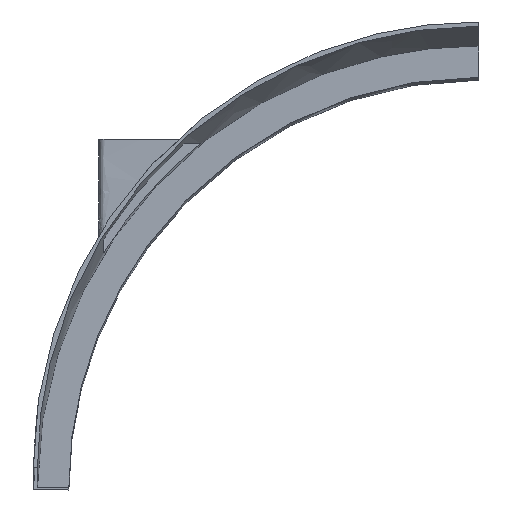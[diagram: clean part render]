
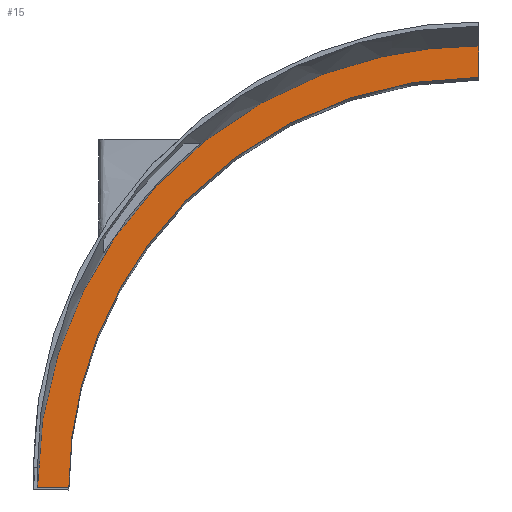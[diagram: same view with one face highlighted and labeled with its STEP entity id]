
A CAD part, top view. The second image highlights one B-rep face of the part: STEP entity #15.
In plain terms, the highlighted free-form (B-spline) face has degree [1, 3] with [2, 19] control points.
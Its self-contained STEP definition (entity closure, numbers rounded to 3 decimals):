
#15=ADVANCED_FACE('',(#27),#153,.T.);
#27=FACE_OUTER_BOUND('',#38,.T.);
#38=EDGE_LOOP('',(#54,#55,#56,#57));
#54=ORIENTED_EDGE('',*,*,#90,.F.);
#55=ORIENTED_EDGE('',*,*,#88,.F.);
#56=ORIENTED_EDGE('',*,*,#89,.F.);
#57=ORIENTED_EDGE('',*,*,#84,.F.);
#84=EDGE_CURVE('',#132,#133,#110,.T.);
#88=EDGE_CURVE('',#137,#136,#114,.T.);
#89=EDGE_CURVE('',#133,#137,#115,.T.);
#90=EDGE_CURVE('',#136,#132,#116,.T.);
#110=B_SPLINE_CURVE_WITH_KNOTS('',3,(#772,#773,#774,#775,#776,#777,#778,
#779,#780,#781,#782,#783,#784,#785,#786,#787,#788,#789,#790),
 .UNSPECIFIED.,.F.,.F.,(4,1,1,1,1,1,1,1,1,1,1,1,1,1,1,1,4),(0.,63.456,
126.451,189.16,251.724,314.29,376.996,
439.991,503.446,566.899,629.893,692.6,
755.163,817.726,880.432,943.43,1006.884),
 .UNSPECIFIED.);
#114=B_SPLINE_CURVE_WITH_KNOTS('',3,(#818,#819,#820,#821,#822,#823,#824,
#825,#826,#827,#828,#829,#830,#831,#832,#833,#834,#835,#836),
 .UNSPECIFIED.,.F.,.F.,(4,1,1,1,1,1,1,1,1,1,1,1,1,1,1,1,4),(-1006.884,
-943.43,-880.432,-817.726,-755.163,
-692.6,-629.893,-566.899,-503.446,-439.991,
-376.996,-314.29,-251.724,-189.16,-126.451,
-63.456,0.),.UNSPECIFIED.);
#115=B_SPLINE_CURVE_WITH_KNOTS('',1,(#837,#838),.UNSPECIFIED.,.F.,.F.,(2,
2),(-154.991,-109.444),.UNSPECIFIED.);
#116=B_SPLINE_CURVE_WITH_KNOTS('',1,(#839,#840),.UNSPECIFIED.,.F.,.F.,(2,
2),(109.444,154.991),.UNSPECIFIED.);
#132=VERTEX_POINT('',#756);
#133=VERTEX_POINT('',#757);
#136=VERTEX_POINT('',#760);
#137=VERTEX_POINT('',#761);
#153=B_SPLINE_SURFACE_WITH_KNOTS('',1,3,((#332,#333,#334,#335,#336,#337,
#338,#339,#340,#341,#342,#343,#344,#345,#346,#347,#348,#349,#350),(#351,
#352,#353,#354,#355,#356,#357,#358,#359,#360,#361,#362,#363,#364,#365,#366,
#367,#368,#369)),.UNSPECIFIED.,.F.,.F.,.F.,(2,2),(4,1,1,1,1,1,1,1,1,1,1,
1,1,1,1,1,4),(-154.991,-109.444),(0.,63.456,126.451,
189.16,251.724,314.29,376.996,439.991,
503.446,566.899,629.893,692.6,755.163,
817.726,880.432,943.43,1006.884),
 .UNSPECIFIED.);
#332=CARTESIAN_POINT('',(1159.364,-142550.254,-1996.016));
#333=CARTESIAN_POINT('',(1159.362,-142529.1,-1996.016));
#334=CARTESIAN_POINT('',(1161.446,-142486.954,-1996.016));
#335=CARTESIAN_POINT('',(1170.763,-142424.514,-1996.016));
#336=CARTESIAN_POINT('',(1186.079,-142363.578,-1996.016));
#337=CARTESIAN_POINT('',(1207.217,-142304.562,-1996.016));
#338=CARTESIAN_POINT('',(1234.004,-142247.885,-1996.016));
#339=CARTESIAN_POINT('',(1266.263,-142193.97,-1996.016));
#340=CARTESIAN_POINT('',(1303.824,-142143.232,-1996.016));
#341=CARTESIAN_POINT('',(1346.371,-142096.255,-1996.016));
#342=CARTESIAN_POINT('',(1393.346,-142053.711,-1996.016));
#343=CARTESIAN_POINT('',(1444.083,-142016.15,-1996.016));
#344=CARTESIAN_POINT('',(1497.999,-141983.892,-1996.016));
#345=CARTESIAN_POINT('',(1554.675,-141957.106,-1996.016));
#346=CARTESIAN_POINT('',(1613.687,-141935.969,-1996.016));
#347=CARTESIAN_POINT('',(1674.624,-141920.653,-1996.016));
#348=CARTESIAN_POINT('',(1737.06,-141911.336,-1996.016));
#349=CARTESIAN_POINT('',(1779.213,-141909.252,-1996.016));
#350=CARTESIAN_POINT('',(1800.363,-141909.254,-1996.016));
#351=CARTESIAN_POINT('',(1204.911,-142550.254,-1996.016));
#352=CARTESIAN_POINT('',(1204.909,-142530.603,-1996.016));
#353=CARTESIAN_POINT('',(1206.844,-142491.452,-1996.016));
#354=CARTESIAN_POINT('',(1215.498,-142433.454,-1996.016));
#355=CARTESIAN_POINT('',(1229.726,-142376.848,-1996.016));
#356=CARTESIAN_POINT('',(1249.362,-142322.024,-1996.016));
#357=CARTESIAN_POINT('',(1274.246,-142269.372,-1996.016));
#358=CARTESIAN_POINT('',(1304.213,-142219.288,-1996.016));
#359=CARTESIAN_POINT('',(1339.102,-142172.158,-1996.016));
#360=CARTESIAN_POINT('',(1378.628,-142128.517,-1996.016));
#361=CARTESIAN_POINT('',(1422.265,-142088.994,-1996.016));
#362=CARTESIAN_POINT('',(1469.395,-142054.105,-1996.016));
#363=CARTESIAN_POINT('',(1519.48,-142024.137,-1996.016));
#364=CARTESIAN_POINT('',(1572.13,-141999.254,-1996.016));
#365=CARTESIAN_POINT('',(1626.951,-141979.618,-1996.016));
#366=CARTESIAN_POINT('',(1683.557,-141965.39,-1996.016));
#367=CARTESIAN_POINT('',(1741.552,-141956.736,-1996.016));
#368=CARTESIAN_POINT('',(1780.709,-141954.799,-1996.016));
#369=CARTESIAN_POINT('',(1800.357,-141954.801,-1996.016));
#756=CARTESIAN_POINT('',(1159.364,-142550.254,-1996.016));
#757=CARTESIAN_POINT('',(1800.363,-141909.254,-1996.016));
#760=CARTESIAN_POINT('',(1204.911,-142550.254,-1996.016));
#761=CARTESIAN_POINT('',(1800.357,-141954.801,-1996.016));
#772=CARTESIAN_POINT('',(1159.364,-142550.254,-1996.016));
#773=CARTESIAN_POINT('',(1159.362,-142529.1,-1996.016));
#774=CARTESIAN_POINT('',(1161.446,-142486.954,-1996.016));
#775=CARTESIAN_POINT('',(1170.763,-142424.514,-1996.016));
#776=CARTESIAN_POINT('',(1186.079,-142363.578,-1996.016));
#777=CARTESIAN_POINT('',(1207.217,-142304.562,-1996.016));
#778=CARTESIAN_POINT('',(1234.004,-142247.885,-1996.016));
#779=CARTESIAN_POINT('',(1266.263,-142193.97,-1996.016));
#780=CARTESIAN_POINT('',(1303.824,-142143.232,-1996.016));
#781=CARTESIAN_POINT('',(1346.371,-142096.255,-1996.016));
#782=CARTESIAN_POINT('',(1393.346,-142053.711,-1996.016));
#783=CARTESIAN_POINT('',(1444.083,-142016.15,-1996.016));
#784=CARTESIAN_POINT('',(1497.999,-141983.892,-1996.016));
#785=CARTESIAN_POINT('',(1554.675,-141957.106,-1996.016));
#786=CARTESIAN_POINT('',(1613.687,-141935.969,-1996.016));
#787=CARTESIAN_POINT('',(1674.624,-141920.653,-1996.016));
#788=CARTESIAN_POINT('',(1737.06,-141911.336,-1996.016));
#789=CARTESIAN_POINT('',(1779.213,-141909.252,-1996.016));
#790=CARTESIAN_POINT('',(1800.363,-141909.254,-1996.016));
#818=CARTESIAN_POINT('',(1800.357,-141954.801,-1996.016));
#819=CARTESIAN_POINT('',(1780.709,-141954.799,-1996.016));
#820=CARTESIAN_POINT('',(1741.552,-141956.736,-1996.016));
#821=CARTESIAN_POINT('',(1683.557,-141965.39,-1996.016));
#822=CARTESIAN_POINT('',(1626.951,-141979.618,-1996.016));
#823=CARTESIAN_POINT('',(1572.13,-141999.254,-1996.016));
#824=CARTESIAN_POINT('',(1519.48,-142024.137,-1996.016));
#825=CARTESIAN_POINT('',(1469.395,-142054.105,-1996.016));
#826=CARTESIAN_POINT('',(1422.265,-142088.994,-1996.016));
#827=CARTESIAN_POINT('',(1378.628,-142128.517,-1996.016));
#828=CARTESIAN_POINT('',(1339.102,-142172.158,-1996.016));
#829=CARTESIAN_POINT('',(1304.213,-142219.288,-1996.016));
#830=CARTESIAN_POINT('',(1274.246,-142269.372,-1996.016));
#831=CARTESIAN_POINT('',(1249.362,-142322.024,-1996.016));
#832=CARTESIAN_POINT('',(1229.726,-142376.848,-1996.016));
#833=CARTESIAN_POINT('',(1215.498,-142433.454,-1996.016));
#834=CARTESIAN_POINT('',(1206.844,-142491.452,-1996.016));
#835=CARTESIAN_POINT('',(1204.909,-142530.603,-1996.016));
#836=CARTESIAN_POINT('',(1204.911,-142550.254,-1996.016));
#837=CARTESIAN_POINT('',(1800.363,-141909.254,-1996.016));
#838=CARTESIAN_POINT('',(1800.357,-141954.801,-1996.016));
#839=CARTESIAN_POINT('',(1204.911,-142550.254,-1996.016));
#840=CARTESIAN_POINT('',(1159.364,-142550.254,-1996.016));
